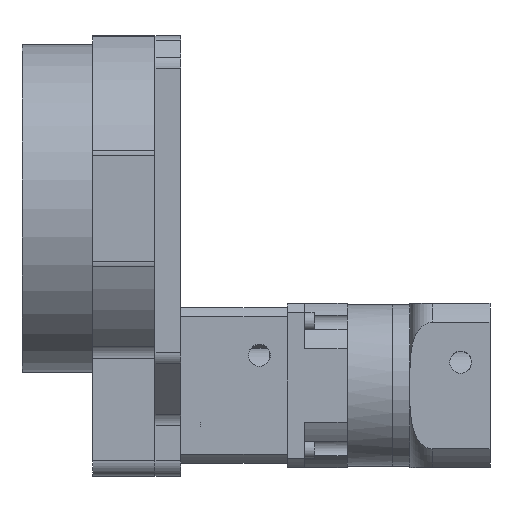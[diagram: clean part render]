
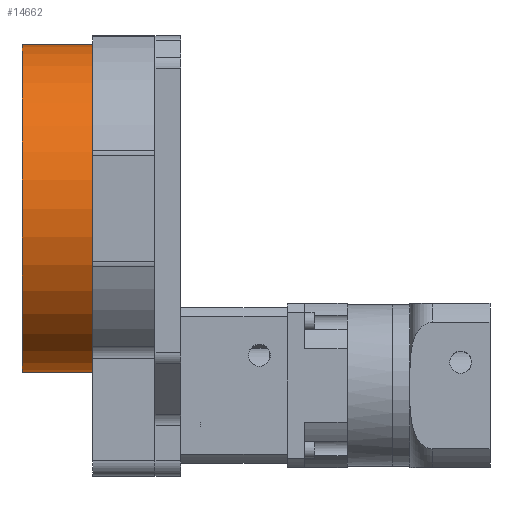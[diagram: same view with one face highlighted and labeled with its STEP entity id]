
A CAD part, left-side view. The second image highlights one B-rep face of the part: STEP entity #14662.
In plain terms, the highlighted cylindrical face has radius 95 mm (diameter 190 mm), a partial arc.
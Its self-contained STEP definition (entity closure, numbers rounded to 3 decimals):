
#579 = VECTOR ( 'NONE', #24659, 1000. ) ;
#783 = DIRECTION ( 'NONE',  ( 0., -1., 0. ) ) ;
#932 = DIRECTION ( 'NONE',  ( 0., 1., 0. ) ) ;
#984 = CARTESIAN_POINT ( 'NONE',  ( 0., 51., 0. ) ) ;
#1823 = CARTESIAN_POINT ( 'NONE',  ( 0., 51., -95. ) ) ;
#2171 = ORIENTED_EDGE ( 'NONE', *, *, #24312, .T. ) ;
#2920 = DIRECTION ( 'NONE',  ( 0., 0., -1. ) ) ;
#3106 = VECTOR ( 'NONE', #5063, 1000. ) ;
#3635 = VERTEX_POINT ( 'NONE', #4588 ) ;
#3659 = ORIENTED_EDGE ( 'NONE', *, *, #20712, .F. ) ;
#4588 = CARTESIAN_POINT ( 'NONE',  ( 0., 92., 95. ) ) ;
#4660 = AXIS2_PLACEMENT_3D ( 'NONE', #12450, #932, #14350 ) ;
#5063 = DIRECTION ( 'NONE',  ( 0., -1., 0. ) ) ;
#5611 = CIRCLE ( 'NONE', #4660, 95. ) ;
#6202 = CARTESIAN_POINT ( 'NONE',  ( 0., 51., 95. ) ) ;
#7634 = ORIENTED_EDGE ( 'NONE', *, *, #13692, .T. ) ;
#9034 = EDGE_LOOP ( 'NONE', ( #3659, #17959, #2171, #7634 ) ) ;
#10337 = DIRECTION ( 'NONE',  ( 0., 0., -1. ) ) ;
#12053 = VERTEX_POINT ( 'NONE', #1823 ) ;
#12450 = CARTESIAN_POINT ( 'NONE',  ( 0., 92., 0. ) ) ;
#13309 = LINE ( 'NONE', #14691, #3106 ) ;
#13692 = EDGE_CURVE ( 'NONE', #12053, #16603, #18035, .T. ) ;
#14350 = DIRECTION ( 'NONE',  ( 0., 0., 1. ) ) ;
#14390 = DIRECTION ( 'NONE',  ( 0., 1., 0. ) ) ;
#14662 = ADVANCED_FACE ( 'NONE', ( #20359 ), #19733, .T. ) ;
#14691 = CARTESIAN_POINT ( 'NONE',  ( 0., 92., -95. ) ) ;
#15043 = CARTESIAN_POINT ( 'NONE',  ( 0., 92., 95. ) ) ;
#16603 = VERTEX_POINT ( 'NONE', #6202 ) ;
#17657 = EDGE_CURVE ( 'NONE', #19938, #3635, #5611, .T. ) ;
#17959 = ORIENTED_EDGE ( 'NONE', *, *, #17657, .F. ) ;
#18035 = CIRCLE ( 'NONE', #19891, 95. ) ;
#19733 = CYLINDRICAL_SURFACE ( 'NONE', #23491, 95. ) ;
#19891 = AXIS2_PLACEMENT_3D ( 'NONE', #984, #14390, #2920 ) ;
#19938 = VERTEX_POINT ( 'NONE', #24262 ) ;
#20359 = FACE_OUTER_BOUND ( 'NONE', #9034, .T. ) ;
#20712 = EDGE_CURVE ( 'NONE', #3635, #16603, #21067, .T. ) ;
#21067 = LINE ( 'NONE', #15043, #579 ) ;
#23491 = AXIS2_PLACEMENT_3D ( 'NONE', #23804, #783, #10337 ) ;
#23804 = CARTESIAN_POINT ( 'NONE',  ( 0., 92., 0. ) ) ;
#24262 = CARTESIAN_POINT ( 'NONE',  ( 0., 92., -95. ) ) ;
#24312 = EDGE_CURVE ( 'NONE', #19938, #12053, #13309, .T. ) ;
#24659 = DIRECTION ( 'NONE',  ( 0., -1., 0. ) ) ;
